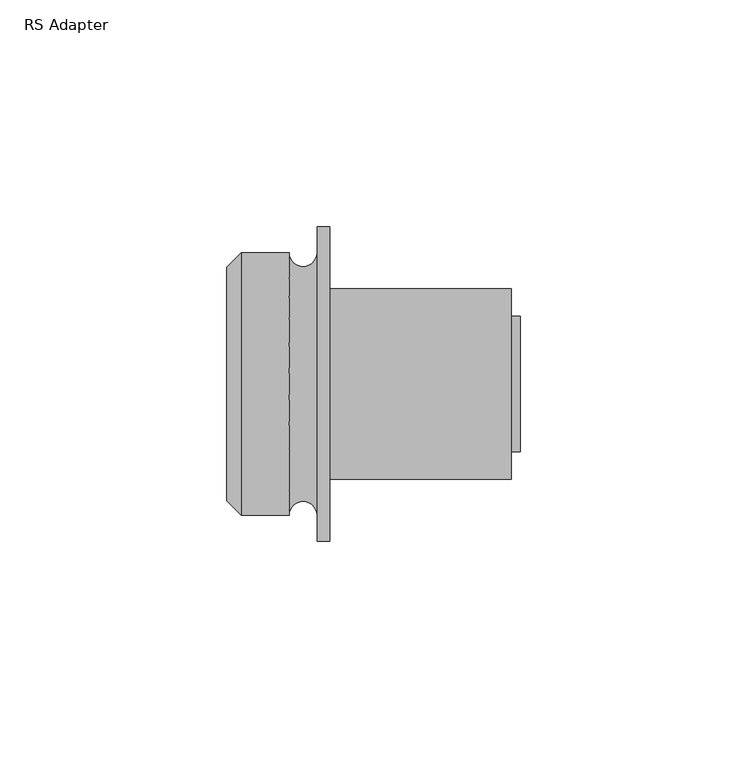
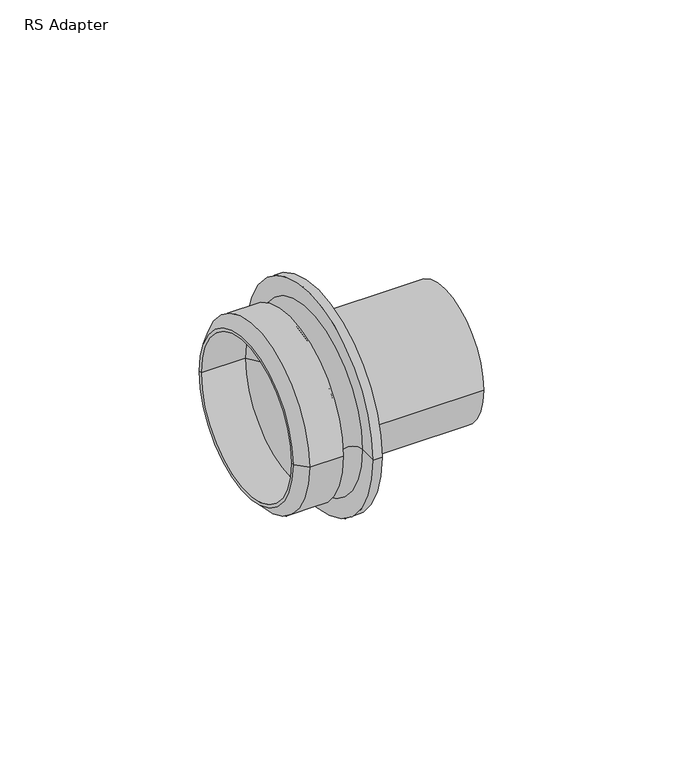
"""IFC4 building model written with IfcOpenShell, lengths in millimetres: pipe fitting geometry, RS Adapter : Superpipe RS Press Adapter."""

from ifc_helpers import new_model, si_unit, point, frame, origin, place, context, project, spatial, polyline, circle_curve, ellipse_curve, trimmed, source, transform, mapped, element, save
from ifc_brep_helpers import plane_surface, cylinder_surface, revolved_surface, advanced_brep


def rs_adapter_634e7d73(model_context):
    return source(origin(), model_context, "Body", "AdvancedBrep", [
        advanced_brep(
        [(62.8, -21.0, 0.0), (62.8, 21.0, 0.0), (62.8, 20.0, 0.0), (62.8, -20.0, 0.0), (22.8, 20.0, 0.0), (22.8, -20.0, 0.0), (22.8, 21.0, 0.0), (22.8, -21.0, 0.0)],
        [
            (0, 1, circle_curve(frame((62.8, 0.0, 0.0), z_axis=(1.0, 0.0, 0.0), x_axis=(0.0, 1.0, 0.0)), 21.0)),
            (1, 2),
            (2, 3, circle_curve(frame((62.8, 0.0, 0.0), z_axis=(-1.0, 0.0, 0.0), x_axis=(0.0, 1.0, 0.0)), 20.0)),
            (3, 0),
            (2, 4),
            (4, 5, circle_curve(frame((22.8, 0.0, 0.0), z_axis=(-1.0, 0.0, 0.0), x_axis=(0.0, 1.0, 0.0)), 20.0)),
            (5, 3),
            (4, 6),
            (6, 7, circle_curve(frame((22.8, 0.0, 0.0), z_axis=(-1.0, 0.0, 0.0), x_axis=(0.0, 1.0, 0.0)), 21.0)),
            (7, 5),
            (6, 1),
            (0, 7),
            (6, 7, circle_curve(frame((22.8, 0.0, 0.0), z_axis=(1.0, 0.0, 0.0), x_axis=(0.0, 1.0, 0.0)), 21.0)),
            (0, 1, circle_curve(frame((62.8, 0.0, 0.0), z_axis=(-1.0, 0.0, 0.0), x_axis=(0.0, 1.0, 0.0)), 21.0)),
            (4, 5, circle_curve(frame((22.8, 0.0, 0.0), z_axis=(1.0, 0.0, 0.0), x_axis=(0.0, 1.0, 0.0)), 20.0)),
            (2, 3, circle_curve(frame((62.8, 0.0, 0.0), z_axis=(1.0, 0.0, 0.0), x_axis=(0.0, 1.0, 0.0)), 20.0)),
        ],
        [
            plane_surface(frame((62.8, 0.0, 0.0), z_axis=(1.0, 0.0, 0.0), x_axis=(0.0, 1.0, 0.0))),
            revolved_surface(polyline([(22.799999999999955, 20.0, 0.0), (62.799999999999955, 20.0, 0.0)]), (2000.0, 0.0, 0.0), (-1.0, 0.0, 0.0)),
            plane_surface(frame((22.8, 0.0, 0.0), z_axis=(-1.0, 0.0, 0.0), x_axis=(0.0, 1.0, 0.0))),
            cylinder_surface(frame((2000.0, 0.0, 0.0), z_axis=(-1.0, 0.0, 0.0), x_axis=(0.0, 1.0, 0.0)), 21.0),
        ],
        [
            (0, [[1, 2, 3, 4]]),
            (1, [[-3, 5, 6, 7]]),
            (2, [[-6, 8, 9, 10]]),
            (3, [[-9, 11, -1, 12]]),
            (3, [[13, -12, 14, -11]]),
            (2, [[15, -10, -13, -8]]),
            (1, [[16, -7, -15, -5]]),
            (0, [[-14, -4, -16, -2]]),
        ],
    ),
        advanced_brep(
        [(64.8, -15.0, 0.0), (64.8, 15.0, 0.0), (64.8, 13.5, 0.0), (64.8, -13.5, 0.0), (22.8, 13.5, 0.0), (22.8, -13.5, 0.0), (22.8, 15.0, 0.0), (22.8, -15.0, 0.0)],
        [
            (0, 1, circle_curve(frame((64.8, 0.0, 0.0), z_axis=(1.0, 0.0, 0.0), x_axis=(0.0, 1.0, 0.0)), 15.0)),
            (1, 2),
            (2, 3, circle_curve(frame((64.8, 0.0, 0.0), z_axis=(-1.0, 0.0, 0.0), x_axis=(0.0, 1.0, 0.0)), 13.5)),
            (3, 0),
            (2, 4),
            (4, 5, circle_curve(frame((22.8, 0.0, 0.0), z_axis=(-1.0, 0.0, 0.0), x_axis=(0.0, 1.0, 0.0)), 13.5)),
            (5, 3),
            (4, 6),
            (6, 7, circle_curve(frame((22.8, 0.0, 0.0), z_axis=(-1.0, 0.0, 0.0), x_axis=(0.0, 1.0, 0.0)), 15.0)),
            (7, 5),
            (6, 1),
            (0, 7),
            (6, 7, circle_curve(frame((22.8, 0.0, 0.0), z_axis=(1.0, 0.0, 0.0), x_axis=(0.0, 1.0, 0.0)), 15.0)),
            (0, 1, circle_curve(frame((64.8, 0.0, 0.0), z_axis=(-1.0, 0.0, 0.0), x_axis=(0.0, 1.0, 0.0)), 15.0)),
            (4, 5, circle_curve(frame((22.8, 0.0, 0.0), z_axis=(1.0, 0.0, 0.0), x_axis=(0.0, 1.0, 0.0)), 13.5)),
            (2, 3, circle_curve(frame((64.8, 0.0, 0.0), z_axis=(1.0, 0.0, 0.0), x_axis=(0.0, 1.0, 0.0)), 13.5)),
        ],
        [
            plane_surface(frame((64.8, 0.0, 0.0), z_axis=(1.0, 0.0, 0.0), x_axis=(0.0, 1.0, 0.0))),
            revolved_surface(polyline([(22.799999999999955, 13.5, 0.0), (64.79999999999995, 13.5, 0.0)]), (2000.0, 0.0, 0.0), (-1.0, 0.0, 0.0)),
            plane_surface(frame((22.8, 0.0, 0.0), z_axis=(-1.0, 0.0, 0.0), x_axis=(0.0, 1.0, 0.0))),
            cylinder_surface(frame((2000.0, 0.0, 0.0), z_axis=(-1.0, 0.0, 0.0), x_axis=(0.0, 1.0, 0.0)), 15.0),
        ],
        [
            (0, [[1, 2, 3, 4]]),
            (1, [[-3, 5, 6, 7]]),
            (2, [[-6, 8, 9, 10]]),
            (3, [[-9, 11, -1, 12]]),
            (3, [[13, -12, 14, -11]]),
            (2, [[15, -10, -13, -8]]),
            (1, [[16, -7, -15, -5]]),
            (0, [[-14, -4, -16, -2]]),
        ],
    ),
        advanced_brep(
        [(20.0, -34.75, 0.0), (20.0, 34.75, 0.0), (22.8, 34.75, 0.0), (22.8, -34.75, 0.0), (20.0, -29.0, 0.0), (20.0, 29.0, 0.0), (22.8, 13.5, 0.0), (22.8, -13.5, 0.0), (0.0, -25.8, 0.0), (0.0, 25.8, 0.0), (3.2, 29.0, 0.0), (3.2, -29.0, 0.0), (0.0, -24.8, 0.0), (0.0, 24.8, 0.0), (13.8, -29.0, 0.0), (13.8, 29.0, 0.0), (14.0, -24.8, 0.0), (14.0, 24.8, 0.0)],
        [
            (0, 1, circle_curve(frame((20.0, 0.0, 0.0), z_axis=(1.0, 0.0, 0.0), x_axis=(0.0, 1.0, 0.0)), 34.75)),
            (1, 2),
            (2, 3, circle_curve(frame((22.8, 0.0, 0.0), z_axis=(-1.0, 0.0, 0.0), x_axis=(0.0, 1.0, 0.0)), 34.75)),
            (3, 0),
            (1, 0, circle_curve(frame((20.0, 0.0, 0.0), z_axis=(1.0, 0.0, 0.0), x_axis=(0.0, 1.0, 0.0)), 34.75)),
            (3, 2, circle_curve(frame((22.8, 0.0, 0.0), z_axis=(-1.0, 0.0, 0.0), x_axis=(0.0, 1.0, 0.0)), 34.75)),
            (0, 4),
            (4, 5, circle_curve(frame((20.0, 0.0, 0.0), z_axis=(1.0, 0.0, 0.0), x_axis=(0.0, 1.0, 0.0)), 29.0)),
            (5, 1),
            (5, 4, circle_curve(frame((20.0, 0.0, 0.0), z_axis=(1.0, 0.0, 0.0), x_axis=(0.0, 1.0, 0.0)), 29.0)),
            (2, 6),
            (6, 7, circle_curve(frame((22.8, 0.0, 0.0), z_axis=(-1.0, 0.0, 0.0), x_axis=(0.0, 1.0, 0.0)), 13.5)),
            (7, 3),
            (7, 6, circle_curve(frame((22.8, 0.0, 0.0), z_axis=(-1.0, 0.0, 0.0), x_axis=(0.0, 1.0, 0.0)), 13.5)),
            (8, 9, circle_curve(frame((0.0, 0.0, 0.0), z_axis=(1.0, 0.0, 0.0), x_axis=(0.0, 1.0, 0.0)), 25.8)),
            (9, 10),
            (10, 11, circle_curve(frame((3.2, 0.0, 0.0), z_axis=(-1.0, 0.0, 0.0), x_axis=(0.0, 1.0, 0.0)), 29.0)),
            (11, 8),
            (9, 8, circle_curve(frame((0.0, 0.0, 0.0), z_axis=(1.0, 0.0, 0.0), x_axis=(0.0, 1.0, 0.0)), 25.8)),
            (11, 10, circle_curve(frame((3.2, 0.0, 0.0), z_axis=(-1.0, 0.0, 0.0), x_axis=(0.0, 1.0, 0.0)), 29.0)),
            (8, 12),
            (12, 13, circle_curve(frame((0.0, 0.0, 0.0), z_axis=(1.0, 0.0, 0.0), x_axis=(0.0, 1.0, 0.0)), 24.8)),
            (13, 9),
            (13, 12, circle_curve(frame((0.0, 0.0, 0.0), z_axis=(1.0, 0.0, 0.0), x_axis=(0.0, 1.0, 0.0)), 24.8)),
            (4, 14, circle_curve(frame((16.9, -29.0, 0.0), z_axis=(0.0, 0.0, 1.0), x_axis=(1.0, 0.0, 0.0)), 3.1)),
            (14, 15, circle_curve(frame((13.8, 0.0, 0.0), z_axis=(1.0, 0.0, 0.0), x_axis=(0.0, 1.0, 0.0)), 29.0)),
            (15, 5, circle_curve(frame((16.9, 29.0, 0.0), z_axis=(0.0, 0.0, 1.0), x_axis=(1.0, 0.0, 0.0)), 3.1)),
            (15, 14, circle_curve(frame((13.8, 0.0, 0.0), z_axis=(1.0, 0.0, 0.0), x_axis=(0.0, 1.0, 0.0)), 29.0)),
            (10, 15),
            (14, 11),
            (12, 16),
            (16, 17, circle_curve(frame((14.0, 0.0, 0.0), z_axis=(1.0, 0.0, 0.0), x_axis=(0.0, 1.0, 0.0)), 24.8)),
            (17, 13),
            (17, 16, circle_curve(frame((14.0, 0.0, 0.0), z_axis=(1.0, 0.0, 0.0), x_axis=(0.0, 1.0, 0.0)), 24.8)),
            (16, 7),
            (6, 17),
        ],
        [
            cylinder_surface(frame((1984.8, 0.0, 0.0), z_axis=(-1.0, 0.0, 0.0), x_axis=(0.0, 1.0, 0.0)), 34.75),
            plane_surface(frame((20.0, 0.0, 0.0), z_axis=(-1.0, 0.0, 0.0), x_axis=(0.0, 1.0, 0.0))),
            plane_surface(frame((22.8, 0.0, 0.0), z_axis=(1.0, 0.0, 0.0), x_axis=(0.0, 1.0, 0.0))),
            revolved_surface(polyline([(3.2, 29.0, 0.0), (0.0, 25.8, 0.0)]), (1984.8, 0.0, 0.0), (-1.0, 0.0, 0.0)),
            plane_surface(frame((0.0, 0.0, 0.0), z_axis=(-1.0, 0.0, 0.0), x_axis=(0.0, 1.0, 0.0))),
            revolved_surface(trimmed(ellipse_curve(frame((16.9, 29.0, 0.0), z_axis=(0.0, 0.0, -1.0), x_axis=(1.0, 0.0, 0.0)), 3.1, 3.1), [point((20.0, 29.0, 0.0))], [point((13.8, 29.0, 0.0))], True, "CARTESIAN"), (1984.8, 0.0, 0.0), (-1.0, 0.0, 0.0)),
            cylinder_surface(frame((1984.8, 0.0, 0.0), z_axis=(-1.0, 0.0, 0.0), x_axis=(0.0, 1.0, 0.0)), 29.0),
            revolved_surface(polyline([(0.0, 24.8, 0.0), (14.0, 24.8, 0.0)]), (2011.0, 0.0, 0.0), (-1.0, 0.0, 0.0)),
            revolved_surface(polyline([(14.0, 24.8, 0.0), (22.8, 13.5, 0.0)]), (2011.0, 0.0, 0.0), (-1.0, 0.0, 0.0)),
        ],
        [
            (0, [[1, 2, 3, 4]]),
            (0, [[-2, 5, -4, 6]]),
            (1, [[-1, 7, 8, 9]]),
            (1, [[-5, -9, 10, -7]]),
            (2, [[-3, 11, 12, 13]]),
            (2, [[-6, -13, 14, -11]]),
            (3, [[15, 16, 17, 18]]),
            (3, [[-16, 19, -18, 20]]),
            (4, [[-15, 21, 22, 23]]),
            (4, [[-19, -23, 24, -21]]),
            (5, [[-8, 25, 26, 27]]),
            (5, [[-10, -27, 28, -25]]),
            (6, [[-17, 29, -26, 30]]),
            (6, [[-20, -30, -28, -29]]),
            (7, [[31, 32, 33, -22]]),
            (7, [[-31, -24, -33, 34]]),
            (8, [[-32, 35, -12, 36]]),
            (8, [[-34, -36, -14, -35]]),
        ],
    ),
    ])


if __name__ == "__main__":
    model = new_model("IFC4")
    model_context = context("Model", 3, world=origin())
    ifc_project = project(units=[si_unit("LENGTHUNIT", "METRE", prefix="MILLI")], contexts=[model_context])
    site = spatial("IfcSite", under=ifc_project)
    building = spatial("IfcBuilding", under=site)
    placement = place(None, origin())
    rs_adapter_shape = rs_adapter_634e7d73(model_context)
    element("IfcPipeFitting", 1, ObjectType="RS Adapter : Superpipe RS Press Adapter", at=placement, inside=building, context=model_context, shape_type="MappedRepresentation", body=[
        mapped(rs_adapter_shape, transform((0.0, 0.0, 0.0), x_axis=(1.0, 0.0, 0.0), y_axis=(0.0, 1.0, 0.0), z_axis=(0.0, 0.0, 1.0))),
    ])
    save(model, "model.ifc")
